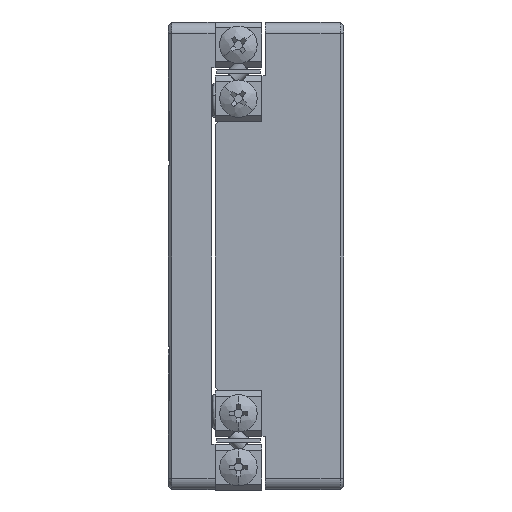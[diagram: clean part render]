
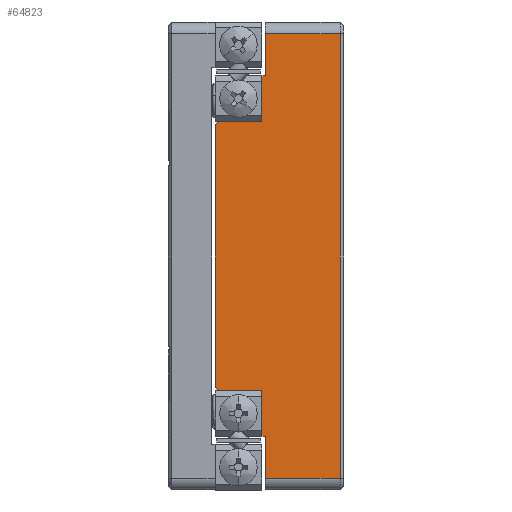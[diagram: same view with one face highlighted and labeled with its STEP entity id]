
A CAD part, left-side view. The second image highlights one B-rep face of the part: STEP entity #64823.
In plain terms, the highlighted planar face has unit normal (-1, 0, 0).
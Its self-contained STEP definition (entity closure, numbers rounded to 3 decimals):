
#213 = CARTESIAN_POINT ( 'NONE',  ( -41.5, 6.7, 19. ) ) ;
#216 = DIRECTION ( 'NONE',  ( 0., 0., 1. ) ) ;
#218 = CARTESIAN_POINT ( 'NONE',  ( -41.5, 11., -11.5 ) ) ;
#4326 = AXIS2_PLACEMENT_3D ( 'NONE', #51893, #36890, #46566 ) ;
#4950 = VERTEX_POINT ( 'NONE', #26935 ) ;
#5045 = CARTESIAN_POINT ( 'NONE',  ( -41.5, 11., 11.2 ) ) ;
#5176 = ORIENTED_EDGE ( 'NONE', *, *, #7207, .F. ) ;
#5217 = VERTEX_POINT ( 'NONE', #213 ) ;
#5451 = LINE ( 'NONE', #17366, #49821 ) ;
#5478 = EDGE_LOOP ( 'NONE', ( #53655, #35376, #33210, #66153, #27753, #64052, #36771, #8547, #59264, #40368, #5176, #8496, #12366, #63321 ) ) ;
#7207 = EDGE_CURVE ( 'NONE', #44007, #5217, #64871, .T. ) ;
#8496 = ORIENTED_EDGE ( 'NONE', *, *, #55247, .F. ) ;
#8547 = ORIENTED_EDGE ( 'NONE', *, *, #21795, .F. ) ;
#9640 = VERTEX_POINT ( 'NONE', #12790 ) ;
#10573 = CARTESIAN_POINT ( 'NONE',  ( -41.5, 11., 20. ) ) ;
#12366 = ORIENTED_EDGE ( 'NONE', *, *, #24350, .F. ) ;
#12489 = VECTOR ( 'NONE', #32875, 1000. ) ;
#12616 = VECTOR ( 'NONE', #36307, 1000. ) ;
#12790 = CARTESIAN_POINT ( 'NONE',  ( -41.5, 7., 15.4 ) ) ;
#13002 = DIRECTION ( 'NONE',  ( 0., 0., 1. ) ) ;
#13265 = LINE ( 'NONE', #53074, #12489 ) ;
#13504 = VERTEX_POINT ( 'NONE', #42439 ) ;
#13912 = EDGE_CURVE ( 'NONE', #64448, #17137, #40218, .T. ) ;
#14020 = CARTESIAN_POINT ( 'NONE',  ( -41.5, 7., -11.5 ) ) ;
#14403 = EDGE_CURVE ( 'NONE', #58424, #16760, #52955, .T. ) ;
#15135 = DIRECTION ( 'NONE',  ( 0., 0., 1. ) ) ;
#15875 = CARTESIAN_POINT ( 'NONE',  ( -41.5, 7., 11.5 ) ) ;
#16200 = CARTESIAN_POINT ( 'NONE',  ( -41.5, 11., -15.4 ) ) ;
#16585 = CARTESIAN_POINT ( 'NONE',  ( -41.5, 7., -15.4 ) ) ;
#16760 = VERTEX_POINT ( 'NONE', #15875 ) ;
#17137 = VERTEX_POINT ( 'NONE', #14020 ) ;
#17147 = VECTOR ( 'NONE', #64032, 1000. ) ;
#17366 = CARTESIAN_POINT ( 'NONE',  ( -41.5, 11., -19. ) ) ;
#17788 = CARTESIAN_POINT ( 'NONE',  ( -41.5, 0.3, 20. ) ) ;
#17993 = EDGE_CURVE ( 'NONE', #38242, #30859, #59681, .T. ) ;
#19649 = DIRECTION ( 'NONE',  ( 0., 0., 1. ) ) ;
#21452 = CARTESIAN_POINT ( 'NONE',  ( -41.5, 0.3, -19. ) ) ;
#21734 = VECTOR ( 'NONE', #49098, 1000. ) ;
#21795 = EDGE_CURVE ( 'NONE', #30859, #41001, #5451, .T. ) ;
#22861 = EDGE_CURVE ( 'NONE', #5217, #38242, #64909, .T. ) ;
#24350 = EDGE_CURVE ( 'NONE', #16760, #9640, #58229, .T. ) ;
#24875 = CARTESIAN_POINT ( 'NONE',  ( -41.5, 6.7, -15.4 ) ) ;
#25731 = CARTESIAN_POINT ( 'NONE',  ( -41.5, 11., 11.5 ) ) ;
#26157 = LINE ( 'NONE', #27906, #47039 ) ;
#26935 = CARTESIAN_POINT ( 'NONE',  ( -41.5, 11., -11.2 ) ) ;
#27753 = ORIENTED_EDGE ( 'NONE', *, *, #13912, .F. ) ;
#27906 = CARTESIAN_POINT ( 'NONE',  ( -41.5, 10.7, 11.5 ) ) ;
#28179 = VECTOR ( 'NONE', #216, 1000. ) ;
#30859 = VERTEX_POINT ( 'NONE', #21452 ) ;
#30949 = VECTOR ( 'NONE', #46359, 1000. ) ;
#31293 = CARTESIAN_POINT ( 'NONE',  ( -41.5, 0.3, 19. ) ) ;
#31579 = CARTESIAN_POINT ( 'NONE',  ( -41.5, 6.7, 15.4 ) ) ;
#31966 = DIRECTION ( 'NONE',  ( 0., -1., 0. ) ) ;
#32501 = DIRECTION ( 'NONE',  ( 0., 0.707, 0.707 ) ) ;
#32603 = VECTOR ( 'NONE', #13002, 1000. ) ;
#32614 = VECTOR ( 'NONE', #19649, 1000. ) ;
#32875 = DIRECTION ( 'NONE',  ( 0., 0., 1. ) ) ;
#33006 = CARTESIAN_POINT ( 'NONE',  ( -41.5, 6.7, -19. ) ) ;
#33153 = EDGE_CURVE ( 'NONE', #4950, #50567, #55091, .T. ) ;
#33210 = ORIENTED_EDGE ( 'NONE', *, *, #49596, .F. ) ;
#35165 = LINE ( 'NONE', #218, #12616 ) ;
#35376 = ORIENTED_EDGE ( 'NONE', *, *, #33153, .F. ) ;
#35995 = PLANE ( 'NONE',  #4326 ) ;
#36077 = CARTESIAN_POINT ( 'NONE',  ( -41.5, 7., 20. ) ) ;
#36307 = DIRECTION ( 'NONE',  ( 0., 1., 0. ) ) ;
#36771 = ORIENTED_EDGE ( 'NONE', *, *, #62907, .F. ) ;
#36869 = VECTOR ( 'NONE', #31966, 1000. ) ;
#36890 = DIRECTION ( 'NONE',  ( 1., 0., 0. ) ) ;
#38190 = EDGE_CURVE ( 'NONE', #51380, #64448, #51069, .T. ) ;
#38242 = VERTEX_POINT ( 'NONE', #31293 ) ;
#38593 = LINE ( 'NONE', #54859, #21734 ) ;
#40218 = LINE ( 'NONE', #36077, #28179 ) ;
#40368 = ORIENTED_EDGE ( 'NONE', *, *, #22861, .F. ) ;
#41001 = VERTEX_POINT ( 'NONE', #33006 ) ;
#41906 = EDGE_CURVE ( 'NONE', #17137, #13504, #35165, .T. ) ;
#42439 = CARTESIAN_POINT ( 'NONE',  ( -41.5, 10.7, -11.5 ) ) ;
#43873 = VECTOR ( 'NONE', #15135, 1000. ) ;
#44007 = VERTEX_POINT ( 'NONE', #31579 ) ;
#46321 = VECTOR ( 'NONE', #32501, 1000. ) ;
#46359 = DIRECTION ( 'NONE',  ( 0., 1., 0. ) ) ;
#46566 = DIRECTION ( 'NONE',  ( 0., 0., -1. ) ) ;
#47039 = VECTOR ( 'NONE', #64487, 1000. ) ;
#47319 = DIRECTION ( 'NONE',  ( 0., -1., 0. ) ) ;
#47555 = CARTESIAN_POINT ( 'NONE',  ( -41.5, 11., 19. ) ) ;
#49098 = DIRECTION ( 'NONE',  ( 0., -1., 0. ) ) ;
#49596 = EDGE_CURVE ( 'NONE', #13504, #4950, #51132, .T. ) ;
#49821 = VECTOR ( 'NONE', #53930, 1000. ) ;
#50190 = CARTESIAN_POINT ( 'NONE',  ( -41.5, 6.7, 20. ) ) ;
#50567 = VERTEX_POINT ( 'NONE', #5045 ) ;
#51069 = LINE ( 'NONE', #16200, #30949 ) ;
#51132 = LINE ( 'NONE', #58691, #46321 ) ;
#51380 = VERTEX_POINT ( 'NONE', #24875 ) ;
#51893 = CARTESIAN_POINT ( 'NONE',  ( -41.5, 11., 20. ) ) ;
#52955 = LINE ( 'NONE', #25731, #36869 ) ;
#53074 = CARTESIAN_POINT ( 'NONE',  ( -41.5, 6.7, 20. ) ) ;
#53237 = CARTESIAN_POINT ( 'NONE',  ( -41.5, 7., 20. ) ) ;
#53655 = ORIENTED_EDGE ( 'NONE', *, *, #58252, .F. ) ;
#53930 = DIRECTION ( 'NONE',  ( 0., 1., 0. ) ) ;
#54859 = CARTESIAN_POINT ( 'NONE',  ( -41.5, 11., 15.4 ) ) ;
#55091 = LINE ( 'NONE', #10573, #43873 ) ;
#55247 = EDGE_CURVE ( 'NONE', #9640, #44007, #38593, .T. ) ;
#58229 = LINE ( 'NONE', #53237, #32603 ) ;
#58252 = EDGE_CURVE ( 'NONE', #50567, #58424, #26157, .T. ) ;
#58424 = VERTEX_POINT ( 'NONE', #61924 ) ;
#58691 = CARTESIAN_POINT ( 'NONE',  ( -41.5, 10.7, -11.5 ) ) ;
#59264 = ORIENTED_EDGE ( 'NONE', *, *, #17993, .F. ) ;
#59681 = LINE ( 'NONE', #17788, #17147 ) ;
#61924 = CARTESIAN_POINT ( 'NONE',  ( -41.5, 10.7, 11.5 ) ) ;
#62907 = EDGE_CURVE ( 'NONE', #41001, #51380, #13265, .T. ) ;
#63234 = VECTOR ( 'NONE', #47319, 1000. ) ;
#63321 = ORIENTED_EDGE ( 'NONE', *, *, #14403, .F. ) ;
#63773 = FACE_OUTER_BOUND ( 'NONE', #5478, .T. ) ;
#64032 = DIRECTION ( 'NONE',  ( 0., 0., -1. ) ) ;
#64052 = ORIENTED_EDGE ( 'NONE', *, *, #38190, .F. ) ;
#64448 = VERTEX_POINT ( 'NONE', #16585 ) ;
#64487 = DIRECTION ( 'NONE',  ( 0., -0.707, 0.707 ) ) ;
#64823 = ADVANCED_FACE ( 'NONE', ( #63773 ), #35995, .F. ) ;
#64871 = LINE ( 'NONE', #50190, #32614 ) ;
#64909 = LINE ( 'NONE', #47555, #63234 ) ;
#66153 = ORIENTED_EDGE ( 'NONE', *, *, #41906, .F. ) ;
